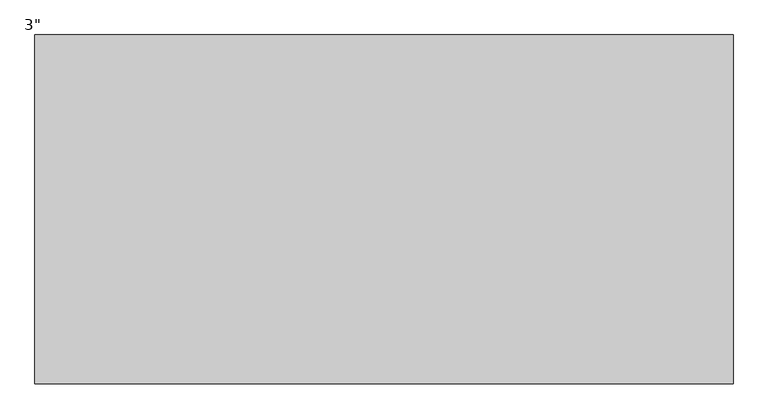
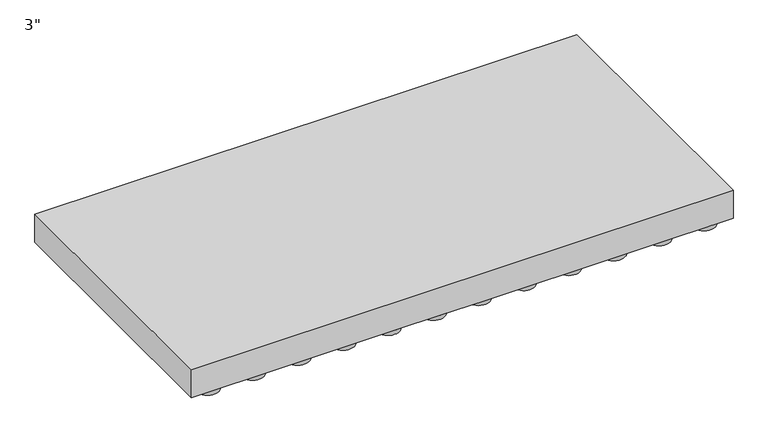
"""IFC4 building model written with IfcOpenShell, lengths in millimetres: proxy geometry."""

from ifc_helpers import new_model, si_unit, frame, origin, place, context, project, spatial, circle_curve, source, transform, mapped, element, save
from ifc_brep_helpers import plane_surface, cylinder_surface, advanced_brep


def proxy_50213ae0(model_context):
    return source(origin(), model_context, "Body", "AdvancedBrep", [
        advanced_brep(
        [(533.4, 279.4, 0.0), (584.2, 279.4, 0.0), (584.2, -279.4, 0.0), (533.4, -279.4, 0.0), (431.8, 279.4, 0.0), (482.6, 279.4, 0.0), (482.6, -279.4, 0.0), (431.8, -279.4, 0.0), (330.2, 279.4, 0.0), (381.0, 279.4, 0.0), (381.0, -279.4, 0.0), (330.2, -279.4, 0.0), (228.6, 279.4, 0.0), (279.4, 279.4, 0.0), (279.4, -279.4, 0.0), (228.6, -279.4, 0.0), (127.0, 279.4, 0.0), (177.8, 279.4, 0.0), (177.8, -279.4, 0.0), (127.0, -279.4, 0.0), (25.4, 279.4, 0.0), (76.2, 279.4, 0.0), (76.2, -279.4, 0.0), (25.4, -279.4, 0.0), (-76.2, 279.4, 0.0), (-25.4, 279.4, 0.0), (-25.4, -279.4, 0.0), (-76.2, -279.4, 0.0), (-177.8, 279.4, 0.0), (-127.0, 279.4, 0.0), (-127.0, -279.4, 0.0), (-177.8, -279.4, 0.0), (-279.4, 279.4, 0.0), (-228.6, 279.4, 0.0), (-228.6, -279.4, 0.0), (-279.4, -279.4, 0.0), (-381.0, 279.4, 0.0), (-330.2, 279.4, 0.0), (-330.2, -279.4, 0.0), (-381.0, -279.4, 0.0), (-482.6, 279.4, 0.0), (-431.8, 279.4, 0.0), (-431.8, -279.4, 0.0), (-482.6, -279.4, 0.0), (-584.2, 279.4, 0.0), (-533.4, 279.4, 0.0), (-533.4, -279.4, 0.0), (-584.2, -279.4, 0.0), (533.4, -279.4, 9.525), (533.4, 279.4, 9.525), (584.2, -279.4, 9.525), (558.8, -304.8, 9.525), (584.2, 279.4, 9.525), (558.8, 304.8, 9.525), (-609.6, -304.8, 76.2), (609.6, -304.8, 76.2), (609.6, 304.8, 76.2), (-609.6, 304.8, 76.2), (-609.6, -304.8, 9.525), (-609.6, 304.8, 9.525), (-558.8, 304.8, 9.525), (-584.2, 279.4, 9.525), (-584.2, -279.4, 9.525), (-558.8, -304.8, 9.525), (609.6, 304.8, 9.525), (609.6, -304.8, 9.525), (457.2, -304.8, 9.525), (482.6, -279.4, 9.525), (482.6, 279.4, 9.525), (457.2, 304.8, 9.525), (355.6, -304.8, 9.525), (381.0, -279.4, 9.525), (381.0, 279.4, 9.525), (355.6, 304.8, 9.525), (431.8, 279.4, 9.525), (431.8, -279.4, 9.525), (254.0, -304.8, 9.525), (279.4, -279.4, 9.525), (279.4, 279.4, 9.525), (254.0, 304.8, 9.525), (330.2, 279.4, 9.525), (330.2, -279.4, 9.525), (152.4, -304.8, 9.525), (177.8, -279.4, 9.525), (177.8, 279.4, 9.525), (152.4, 304.8, 9.525), (228.6, 279.4, 9.525), (228.6, -279.4, 9.525), (50.8, -304.8, 9.525), (76.2, -279.4, 9.525), (76.2, 279.4, 9.525), (50.8, 304.8, 9.525), (127.0, 279.4, 9.525), (127.0, -279.4, 9.525), (-50.8, -304.8, 9.525), (-25.4, -279.4, 9.525), (-25.4, 279.4, 9.525), (-50.8, 304.8, 9.525), (25.4, 279.4, 9.525), (25.4, -279.4, 9.525), (-152.4, -304.8, 9.525), (-127.0, -279.4, 9.525), (-127.0, 279.4, 9.525), (-152.4, 304.8, 9.525), (-76.2, 279.4, 9.525), (-76.2, -279.4, 9.525), (-254.0, -304.8, 9.525), (-228.6, -279.4, 9.525), (-228.6, 279.4, 9.525), (-254.0, 304.8, 9.525), (-177.8, 279.4, 9.525), (-177.8, -279.4, 9.525), (-355.6, -304.8, 9.525), (-330.2, -279.4, 9.525), (-330.2, 279.4, 9.525), (-355.6, 304.8, 9.525), (-279.4, 279.4, 9.525), (-279.4, -279.4, 9.525), (-457.2, -304.8, 9.525), (-431.8, -279.4, 9.525), (-431.8, 279.4, 9.525), (-457.2, 304.8, 9.525), (-381.0, 279.4, 9.525), (-381.0, -279.4, 9.525), (-533.4, -279.4, 9.525), (-533.4, 279.4, 9.525), (-482.6, 279.4, 9.525), (-482.6, -279.4, 9.525)],
        [
            (0, 1, circle_curve(frame((558.8, 279.4, 0.0), z_axis=(0.0, 0.0, -1.0), x_axis=(1.0, 0.0, 0.0)), 25.4)),
            (1, 2),
            (2, 3, circle_curve(frame((558.8, -279.4, 0.0), z_axis=(0.0, 0.0, -1.0), x_axis=(1.0, 0.0, 0.0)), 25.4)),
            (3, 0),
            (4, 5, circle_curve(frame((457.2, 279.4, 0.0), z_axis=(0.0, 0.0, -1.0), x_axis=(1.0, 0.0, 0.0)), 25.4)),
            (5, 6),
            (6, 7, circle_curve(frame((457.2, -279.4, 0.0), z_axis=(0.0, 0.0, -1.0), x_axis=(1.0, 0.0, 0.0)), 25.4)),
            (7, 4),
            (8, 9, circle_curve(frame((355.6, 279.4, 0.0), z_axis=(0.0, 0.0, -1.0), x_axis=(1.0, 0.0, 0.0)), 25.4)),
            (9, 10),
            (10, 11, circle_curve(frame((355.6, -279.4, 0.0), z_axis=(0.0, 0.0, -1.0), x_axis=(1.0, 0.0, 0.0)), 25.4)),
            (11, 8),
            (12, 13, circle_curve(frame((254.0, 279.4, 0.0), z_axis=(0.0, 0.0, -1.0), x_axis=(1.0, 0.0, 0.0)), 25.4)),
            (13, 14),
            (14, 15, circle_curve(frame((254.0, -279.4, 0.0), z_axis=(0.0, 0.0, -1.0), x_axis=(1.0, 0.0, 0.0)), 25.4)),
            (15, 12),
            (16, 17, circle_curve(frame((152.4, 279.4, 0.0), z_axis=(0.0, 0.0, -1.0), x_axis=(1.0, 0.0, 0.0)), 25.4)),
            (17, 18),
            (18, 19, circle_curve(frame((152.4, -279.4, 0.0), z_axis=(0.0, 0.0, -1.0), x_axis=(1.0, 0.0, 0.0)), 25.4)),
            (19, 16),
            (20, 21, circle_curve(frame((50.8, 279.4, 0.0), z_axis=(0.0, 0.0, -1.0), x_axis=(1.0, 0.0, 0.0)), 25.4)),
            (21, 22),
            (22, 23, circle_curve(frame((50.8, -279.4, 0.0), z_axis=(0.0, 0.0, -1.0), x_axis=(1.0, 0.0, 0.0)), 25.4)),
            (23, 20),
            (24, 25, circle_curve(frame((-50.8, 279.4, 0.0), z_axis=(0.0, 0.0, -1.0), x_axis=(1.0, 0.0, 0.0)), 25.4)),
            (25, 26),
            (26, 27, circle_curve(frame((-50.8, -279.4, 0.0), z_axis=(0.0, 0.0, -1.0), x_axis=(1.0, 0.0, 0.0)), 25.4)),
            (27, 24),
            (28, 29, circle_curve(frame((-152.4, 279.4, 0.0), z_axis=(0.0, 0.0, -1.0), x_axis=(1.0, 0.0, 0.0)), 25.4)),
            (29, 30),
            (30, 31, circle_curve(frame((-152.4, -279.4, 0.0), z_axis=(0.0, 0.0, -1.0), x_axis=(1.0, 0.0, 0.0)), 25.4)),
            (31, 28),
            (32, 33, circle_curve(frame((-254.0, 279.4, 0.0), z_axis=(0.0, 0.0, -1.0), x_axis=(1.0, 0.0, 0.0)), 25.4)),
            (33, 34),
            (34, 35, circle_curve(frame((-254.0, -279.4, 0.0), z_axis=(0.0, 0.0, -1.0), x_axis=(1.0, 0.0, 0.0)), 25.4)),
            (35, 32),
            (36, 37, circle_curve(frame((-355.6, 279.4, 0.0), z_axis=(0.0, 0.0, -1.0), x_axis=(1.0, 0.0, 0.0)), 25.4)),
            (37, 38),
            (38, 39, circle_curve(frame((-355.6, -279.4, 0.0), z_axis=(0.0, 0.0, -1.0), x_axis=(1.0, 0.0, 0.0)), 25.4)),
            (39, 36),
            (40, 41, circle_curve(frame((-457.2, 279.4, 0.0), z_axis=(0.0, 0.0, -1.0), x_axis=(1.0, 0.0, 0.0)), 25.4)),
            (41, 42),
            (42, 43, circle_curve(frame((-457.2, -279.4, 0.0), z_axis=(0.0, 0.0, -1.0), x_axis=(1.0, 0.0, 0.0)), 25.4)),
            (43, 40),
            (44, 45, circle_curve(frame((-558.8, 279.4, 0.0), z_axis=(0.0, 0.0, -1.0), x_axis=(1.0, 0.0, 0.0)), 25.4)),
            (45, 46),
            (46, 47, circle_curve(frame((-558.8, -279.4, 0.0), z_axis=(0.0, 0.0, -1.0), x_axis=(1.0, 0.0, 0.0)), 25.4)),
            (47, 44),
            (3, 48),
            (48, 49),
            (49, 0),
            (2, 50),
            (50, 51, circle_curve(frame((558.8, -279.4, 9.525), z_axis=(0.0, 0.0, -1.0), x_axis=(1.0, 0.0, 0.0)), 25.4)),
            (51, 48, circle_curve(frame((558.8, -279.4, 9.525), z_axis=(0.0, 0.0, -1.0), x_axis=(1.0, 0.0, 0.0)), 25.4)),
            (1, 52),
            (52, 50),
            (49, 53, circle_curve(frame((558.8, 279.4, 9.525), z_axis=(0.0, 0.0, -1.0), x_axis=(1.0, 0.0, 0.0)), 25.4)),
            (53, 52, circle_curve(frame((558.8, 279.4, 9.525), z_axis=(0.0, 0.0, -1.0), x_axis=(1.0, 0.0, 0.0)), 25.4)),
            (54, 55),
            (55, 56),
            (56, 57),
            (57, 54),
            (58, 59),
            (59, 60),
            (60, 61, circle_curve(frame((-558.8, 279.4, 9.525), z_axis=(0.0, 0.0, 1.0), x_axis=(1.0, 0.0, 0.0)), 25.4)),
            (61, 62),
            (62, 63, circle_curve(frame((-558.8, -279.4, 9.525), z_axis=(0.0, 0.0, 1.0), x_axis=(1.0, 0.0, 0.0)), 25.4)),
            (63, 58),
            (64, 65),
            (65, 51),
            (53, 64),
            (51, 66),
            (66, 67, circle_curve(frame((457.2, -279.4, 9.525), z_axis=(0.0, 0.0, 1.0), x_axis=(1.0, 0.0, 0.0)), 25.4)),
            (67, 68),
            (68, 69, circle_curve(frame((457.2, 279.4, 9.525), z_axis=(0.0, 0.0, 1.0), x_axis=(1.0, 0.0, 0.0)), 25.4)),
            (69, 53),
            (66, 70),
            (70, 71, circle_curve(frame((355.6, -279.4, 9.525), z_axis=(0.0, 0.0, 1.0), x_axis=(1.0, 0.0, 0.0)), 25.4)),
            (71, 72),
            (72, 73, circle_curve(frame((355.6, 279.4, 9.525), z_axis=(0.0, 0.0, 1.0), x_axis=(1.0, 0.0, 0.0)), 25.4)),
            (73, 69),
            (69, 74, circle_curve(frame((457.2, 279.4, 9.525), z_axis=(0.0, 0.0, 1.0), x_axis=(1.0, 0.0, 0.0)), 25.4)),
            (74, 75),
            (75, 66, circle_curve(frame((457.2, -279.4, 9.525), z_axis=(0.0, 0.0, 1.0), x_axis=(1.0, 0.0, 0.0)), 25.4)),
            (70, 76),
            (76, 77, circle_curve(frame((254.0, -279.4, 9.525), z_axis=(0.0, 0.0, 1.0), x_axis=(1.0, 0.0, 0.0)), 25.4)),
            (77, 78),
            (78, 79, circle_curve(frame((254.0, 279.4, 9.525), z_axis=(0.0, 0.0, 1.0), x_axis=(1.0, 0.0, 0.0)), 25.4)),
            (79, 73),
            (73, 80, circle_curve(frame((355.6, 279.4, 9.525), z_axis=(0.0, 0.0, 1.0), x_axis=(1.0, 0.0, 0.0)), 25.4)),
            (80, 81),
            (81, 70, circle_curve(frame((355.6, -279.4, 9.525), z_axis=(0.0, 0.0, 1.0), x_axis=(1.0, 0.0, 0.0)), 25.4)),
            (76, 82),
            (82, 83, circle_curve(frame((152.4, -279.4, 9.525), z_axis=(0.0, 0.0, 1.0), x_axis=(1.0, 0.0, 0.0)), 25.4)),
            (83, 84),
            (84, 85, circle_curve(frame((152.4, 279.4, 9.525), z_axis=(0.0, 0.0, 1.0), x_axis=(1.0, 0.0, 0.0)), 25.4)),
            (85, 79),
            (79, 86, circle_curve(frame((254.0, 279.4, 9.525), z_axis=(0.0, 0.0, 1.0), x_axis=(1.0, 0.0, 0.0)), 25.4)),
            (86, 87),
            (87, 76, circle_curve(frame((254.0, -279.4, 9.525), z_axis=(0.0, 0.0, 1.0), x_axis=(1.0, 0.0, 0.0)), 25.4)),
            (82, 88),
            (88, 89, circle_curve(frame((50.8, -279.4, 9.525), z_axis=(0.0, 0.0, 1.0), x_axis=(1.0, 0.0, 0.0)), 25.4)),
            (89, 90),
            (90, 91, circle_curve(frame((50.8, 279.4, 9.525), z_axis=(0.0, 0.0, 1.0), x_axis=(1.0, 0.0, 0.0)), 25.4)),
            (91, 85),
            (85, 92, circle_curve(frame((152.4, 279.4, 9.525), z_axis=(0.0, 0.0, 1.0), x_axis=(1.0, 0.0, 0.0)), 25.4)),
            (92, 93),
            (93, 82, circle_curve(frame((152.4, -279.4, 9.525), z_axis=(0.0, 0.0, 1.0), x_axis=(1.0, 0.0, 0.0)), 25.4)),
            (88, 94),
            (94, 95, circle_curve(frame((-50.8, -279.4, 9.525), z_axis=(0.0, 0.0, 1.0), x_axis=(1.0, 0.0, 0.0)), 25.4)),
            (95, 96),
            (96, 97, circle_curve(frame((-50.8, 279.4, 9.525), z_axis=(0.0, 0.0, 1.0), x_axis=(1.0, 0.0, 0.0)), 25.4)),
            (97, 91),
            (91, 98, circle_curve(frame((50.8, 279.4, 9.525), z_axis=(0.0, 0.0, 1.0), x_axis=(1.0, 0.0, 0.0)), 25.4)),
            (98, 99),
            (99, 88, circle_curve(frame((50.8, -279.4, 9.525), z_axis=(0.0, 0.0, 1.0), x_axis=(1.0, 0.0, 0.0)), 25.4)),
            (94, 100),
            (100, 101, circle_curve(frame((-152.4, -279.4, 9.525), z_axis=(0.0, 0.0, 1.0), x_axis=(1.0, 0.0, 0.0)), 25.4)),
            (101, 102),
            (102, 103, circle_curve(frame((-152.4, 279.4, 9.525), z_axis=(0.0, 0.0, 1.0), x_axis=(1.0, 0.0, 0.0)), 25.4)),
            (103, 97),
            (97, 104, circle_curve(frame((-50.8, 279.4, 9.525), z_axis=(0.0, 0.0, 1.0), x_axis=(1.0, 0.0, 0.0)), 25.4)),
            (104, 105),
            (105, 94, circle_curve(frame((-50.8, -279.4, 9.525), z_axis=(0.0, 0.0, 1.0), x_axis=(1.0, 0.0, 0.0)), 25.4)),
            (100, 106),
            (106, 107, circle_curve(frame((-254.0, -279.4, 9.525), z_axis=(0.0, 0.0, 1.0), x_axis=(1.0, 0.0, 0.0)), 25.4)),
            (107, 108),
            (108, 109, circle_curve(frame((-254.0, 279.4, 9.525), z_axis=(0.0, 0.0, 1.0), x_axis=(1.0, 0.0, 0.0)), 25.4)),
            (109, 103),
            (103, 110, circle_curve(frame((-152.4, 279.4, 9.525), z_axis=(0.0, 0.0, 1.0), x_axis=(1.0, 0.0, 0.0)), 25.4)),
            (110, 111),
            (111, 100, circle_curve(frame((-152.4, -279.4, 9.525), z_axis=(0.0, 0.0, 1.0), x_axis=(1.0, 0.0, 0.0)), 25.4)),
            (106, 112),
            (112, 113, circle_curve(frame((-355.6, -279.4, 9.525), z_axis=(0.0, 0.0, 1.0), x_axis=(1.0, 0.0, 0.0)), 25.4)),
            (113, 114),
            (114, 115, circle_curve(frame((-355.6, 279.4, 9.525), z_axis=(0.0, 0.0, 1.0), x_axis=(1.0, 0.0, 0.0)), 25.4)),
            (115, 109),
            (109, 116, circle_curve(frame((-254.0, 279.4, 9.525), z_axis=(0.0, 0.0, 1.0), x_axis=(1.0, 0.0, 0.0)), 25.4)),
            (116, 117),
            (117, 106, circle_curve(frame((-254.0, -279.4, 9.525), z_axis=(0.0, 0.0, 1.0), x_axis=(1.0, 0.0, 0.0)), 25.4)),
            (112, 118),
            (118, 119, circle_curve(frame((-457.2, -279.4, 9.525), z_axis=(0.0, 0.0, 1.0), x_axis=(1.0, 0.0, 0.0)), 25.4)),
            (119, 120),
            (120, 121, circle_curve(frame((-457.2, 279.4, 9.525), z_axis=(0.0, 0.0, 1.0), x_axis=(1.0, 0.0, 0.0)), 25.4)),
            (121, 115),
            (115, 122, circle_curve(frame((-355.6, 279.4, 9.525), z_axis=(0.0, 0.0, 1.0), x_axis=(1.0, 0.0, 0.0)), 25.4)),
            (122, 123),
            (123, 112, circle_curve(frame((-355.6, -279.4, 9.525), z_axis=(0.0, 0.0, 1.0), x_axis=(1.0, 0.0, 0.0)), 25.4)),
            (118, 63),
            (63, 124, circle_curve(frame((-558.8, -279.4, 9.525), z_axis=(0.0, 0.0, 1.0), x_axis=(1.0, 0.0, 0.0)), 25.4)),
            (124, 125),
            (125, 60, circle_curve(frame((-558.8, 279.4, 9.525), z_axis=(0.0, 0.0, 1.0), x_axis=(1.0, 0.0, 0.0)), 25.4)),
            (60, 121),
            (121, 126, circle_curve(frame((-457.2, 279.4, 9.525), z_axis=(0.0, 0.0, 1.0), x_axis=(1.0, 0.0, 0.0)), 25.4)),
            (126, 127),
            (127, 118, circle_curve(frame((-457.2, -279.4, 9.525), z_axis=(0.0, 0.0, 1.0), x_axis=(1.0, 0.0, 0.0)), 25.4)),
            (54, 58),
            (65, 55),
            (64, 56),
            (59, 57),
            (7, 75),
            (74, 4),
            (6, 67),
            (5, 68),
            (11, 81),
            (80, 8),
            (10, 71),
            (9, 72),
            (15, 87),
            (86, 12),
            (14, 77),
            (13, 78),
            (19, 93),
            (92, 16),
            (18, 83),
            (17, 84),
            (23, 99),
            (98, 20),
            (22, 89),
            (21, 90),
            (27, 105),
            (104, 24),
            (26, 95),
            (25, 96),
            (31, 111),
            (110, 28),
            (30, 101),
            (29, 102),
            (35, 117),
            (116, 32),
            (34, 107),
            (33, 108),
            (39, 123),
            (122, 36),
            (38, 113),
            (37, 114),
            (43, 127),
            (126, 40),
            (42, 119),
            (41, 120),
            (47, 62),
            (61, 44),
            (46, 124),
            (45, 125),
        ],
        [
            plane_surface(frame((533.4, 279.4, 0.0), z_axis=(0.0, 0.0, -1.0), x_axis=(0.0, 1.0, 0.0))),
            plane_surface(frame((533.4, 279.4, 9.525), z_axis=(-1.0, 0.0, 0.0), x_axis=(0.0, 0.0, -1.0))),
            cylinder_surface(frame((558.8, -279.4, 0.0), z_axis=(0.0, 0.0, 1.0), x_axis=(1.0, 0.0, 0.0)), 25.4),
            plane_surface(frame((584.2, -279.4, 9.525), z_axis=(1.0, 0.0, 0.0), x_axis=(0.0, 0.0, -1.0))),
            cylinder_surface(frame((558.8, 279.4, 0.0), z_axis=(0.0, 0.0, 1.0), x_axis=(1.0, 0.0, 0.0)), 25.4),
            plane_surface(frame((1524.0, -304.8, 76.2), z_axis=(0.0, 0.0, 1.0), x_axis=(1.0, 0.0, 0.0))),
            plane_surface(frame((1524.0, -304.8, 9.525), z_axis=(0.0, 0.0, -1.0), x_axis=(-1.0, 0.0, 0.0))),
            plane_surface(frame((-609.6, -304.8, 76.2), z_axis=(0.0, -1.0, 0.0), x_axis=(0.0, 0.0, -1.0))),
            plane_surface(frame((609.6, -304.8, 76.2), z_axis=(1.0, 0.0, 0.0), x_axis=(0.0, 0.0, -1.0))),
            plane_surface(frame((609.6, 304.8, 76.2), z_axis=(0.0, 1.0, 0.0), x_axis=(0.0, 0.0, -1.0))),
            plane_surface(frame((-609.6, 304.8, 76.2), z_axis=(-1.0, 0.0, 0.0), x_axis=(0.0, 0.0, -1.0))),
            plane_surface(frame((431.8, 279.4, 9.525), z_axis=(-1.0, 0.0, 0.0), x_axis=(0.0, 0.0, -1.0))),
            cylinder_surface(frame((457.2, -279.4, 0.0), z_axis=(0.0, 0.0, 1.0), x_axis=(1.0, 0.0, 0.0)), 25.4),
            plane_surface(frame((482.6, -279.4, 9.525), z_axis=(1.0, 0.0, 0.0), x_axis=(0.0, 0.0, -1.0))),
            cylinder_surface(frame((457.2, 279.4, 0.0), z_axis=(0.0, 0.0, 1.0), x_axis=(1.0, 0.0, 0.0)), 25.4),
            plane_surface(frame((330.2, 279.4, 9.525), z_axis=(-1.0, 0.0, 0.0), x_axis=(0.0, 0.0, -1.0))),
            cylinder_surface(frame((355.6, -279.4, 0.0), z_axis=(0.0, 0.0, 1.0), x_axis=(1.0, 0.0, 0.0)), 25.4),
            plane_surface(frame((381.0, -279.4, 9.525), z_axis=(1.0, 0.0, 0.0), x_axis=(0.0, 0.0, -1.0))),
            cylinder_surface(frame((355.6, 279.4, 0.0), z_axis=(0.0, 0.0, 1.0), x_axis=(1.0, 0.0, 0.0)), 25.4),
            plane_surface(frame((228.6, 279.4, 9.525), z_axis=(-1.0, 0.0, 0.0), x_axis=(0.0, 0.0, -1.0))),
            cylinder_surface(frame((254.0, -279.4, 0.0), z_axis=(0.0, 0.0, 1.0), x_axis=(1.0, 0.0, 0.0)), 25.4),
            plane_surface(frame((279.4, -279.4, 9.525), z_axis=(1.0, 0.0, 0.0), x_axis=(0.0, 0.0, -1.0))),
            cylinder_surface(frame((254.0, 279.4, 0.0), z_axis=(0.0, 0.0, 1.0), x_axis=(1.0, 0.0, 0.0)), 25.4),
            plane_surface(frame((127.0, 279.4, 9.525), z_axis=(-1.0, 0.0, 0.0), x_axis=(0.0, 0.0, -1.0))),
            cylinder_surface(frame((152.4, -279.4, 0.0), z_axis=(0.0, 0.0, 1.0), x_axis=(1.0, 0.0, 0.0)), 25.4),
            plane_surface(frame((177.8, -279.4, 9.525), z_axis=(1.0, 0.0, 0.0), x_axis=(0.0, 0.0, -1.0))),
            cylinder_surface(frame((152.4, 279.4, 0.0), z_axis=(0.0, 0.0, 1.0), x_axis=(1.0, 0.0, 0.0)), 25.4),
            plane_surface(frame((25.4, 279.4, 9.525), z_axis=(-1.0, 0.0, 0.0), x_axis=(0.0, 0.0, -1.0))),
            cylinder_surface(frame((50.8, -279.4, 0.0), z_axis=(0.0, 0.0, 1.0), x_axis=(1.0, 0.0, 0.0)), 25.4),
            plane_surface(frame((76.2, -279.4, 9.525), z_axis=(1.0, 0.0, 0.0), x_axis=(0.0, 0.0, -1.0))),
            cylinder_surface(frame((50.8, 279.4, 0.0), z_axis=(0.0, 0.0, 1.0), x_axis=(1.0, 0.0, 0.0)), 25.4),
            plane_surface(frame((-76.2, 279.4, 9.525), z_axis=(-1.0, 0.0, 0.0), x_axis=(0.0, 0.0, -1.0))),
            cylinder_surface(frame((-50.8, -279.4, 0.0), z_axis=(0.0, 0.0, 1.0), x_axis=(1.0, 0.0, 0.0)), 25.4),
            plane_surface(frame((-25.4, -279.4, 9.525), z_axis=(1.0, 0.0, 0.0), x_axis=(0.0, 0.0, -1.0))),
            cylinder_surface(frame((-50.8, 279.4, 0.0), z_axis=(0.0, 0.0, 1.0), x_axis=(1.0, 0.0, 0.0)), 25.4),
            plane_surface(frame((-177.8, 279.4, 9.525), z_axis=(-1.0, 0.0, 0.0), x_axis=(0.0, 0.0, -1.0))),
            cylinder_surface(frame((-152.4, -279.4, 0.0), z_axis=(0.0, 0.0, 1.0), x_axis=(1.0, 0.0, 0.0)), 25.4),
            plane_surface(frame((-127.0, -279.4, 9.525), z_axis=(1.0, 0.0, 0.0), x_axis=(0.0, 0.0, -1.0))),
            cylinder_surface(frame((-152.4, 279.4, 0.0), z_axis=(0.0, 0.0, 1.0), x_axis=(1.0, 0.0, 0.0)), 25.4),
            plane_surface(frame((-279.4, 279.4, 9.525), z_axis=(-1.0, 0.0, 0.0), x_axis=(0.0, 0.0, -1.0))),
            cylinder_surface(frame((-254.0, -279.4, 0.0), z_axis=(0.0, 0.0, 1.0), x_axis=(1.0, 0.0, 0.0)), 25.4),
            plane_surface(frame((-228.6, -279.4, 9.525), z_axis=(1.0, 0.0, 0.0), x_axis=(0.0, 0.0, -1.0))),
            cylinder_surface(frame((-254.0, 279.4, 0.0), z_axis=(0.0, 0.0, 1.0), x_axis=(1.0, 0.0, 0.0)), 25.4),
            plane_surface(frame((-381.0, 279.4, 9.525), z_axis=(-1.0, 0.0, 0.0), x_axis=(0.0, 0.0, -1.0))),
            cylinder_surface(frame((-355.6, -279.4, 0.0), z_axis=(0.0, 0.0, 1.0), x_axis=(1.0, 0.0, 0.0)), 25.4),
            plane_surface(frame((-330.2, -279.4, 9.525), z_axis=(1.0, 0.0, 0.0), x_axis=(0.0, 0.0, -1.0))),
            cylinder_surface(frame((-355.6, 279.4, 0.0), z_axis=(0.0, 0.0, 1.0), x_axis=(1.0, 0.0, 0.0)), 25.4),
            plane_surface(frame((-482.6, 279.4, 9.525), z_axis=(-1.0, 0.0, 0.0), x_axis=(0.0, 0.0, -1.0))),
            cylinder_surface(frame((-457.2, -279.4, 0.0), z_axis=(0.0, 0.0, 1.0), x_axis=(1.0, 0.0, 0.0)), 25.4),
            plane_surface(frame((-431.8, -279.4, 9.525), z_axis=(1.0, 0.0, 0.0), x_axis=(0.0, 0.0, -1.0))),
            cylinder_surface(frame((-457.2, 279.4, 0.0), z_axis=(0.0, 0.0, 1.0), x_axis=(1.0, 0.0, 0.0)), 25.4),
            plane_surface(frame((-584.2, 279.4, 9.525), z_axis=(-1.0, 0.0, 0.0), x_axis=(0.0, 0.0, -1.0))),
            cylinder_surface(frame((-558.8, -279.4, 0.0), z_axis=(0.0, 0.0, 1.0), x_axis=(1.0, 0.0, 0.0)), 25.4),
            plane_surface(frame((-533.4, -279.4, 9.525), z_axis=(1.0, 0.0, 0.0), x_axis=(0.0, 0.0, -1.0))),
            cylinder_surface(frame((-558.8, 279.4, 0.0), z_axis=(0.0, 0.0, 1.0), x_axis=(1.0, 0.0, 0.0)), 25.4),
        ],
        [
            (0, [[1, 2, 3, 4]]),
            (0, [[5, 6, 7, 8]]),
            (0, [[9, 10, 11, 12]]),
            (0, [[13, 14, 15, 16]]),
            (0, [[17, 18, 19, 20]]),
            (0, [[21, 22, 23, 24]]),
            (0, [[25, 26, 27, 28]]),
            (0, [[29, 30, 31, 32]]),
            (0, [[33, 34, 35, 36]]),
            (0, [[37, 38, 39, 40]]),
            (0, [[41, 42, 43, 44]]),
            (0, [[45, 46, 47, 48]]),
            (1, [[-4, 49, 50, 51]]),
            (2, [[-3, 52, 53, 54, -49]]),
            (3, [[-2, 55, 56, -52]]),
            (4, [[-1, -51, 57, 58, -55]]),
            (5, [[59, 60, 61, 62]]),
            (6, [[63, 64, 65, 66, 67, 68]]),
            (6, [[69, 70, -53, -56, -58, 71]]),
            (6, [[72, 73, 74, 75, 76, -57, -50, -54]]),
            (6, [[77, 78, 79, 80, 81, 82, 83, 84]]),
            (6, [[85, 86, 87, 88, 89, 90, 91, 92]]),
            (6, [[93, 94, 95, 96, 97, 98, 99, 100]]),
            (6, [[101, 102, 103, 104, 105, 106, 107, 108]]),
            (6, [[109, 110, 111, 112, 113, 114, 115, 116]]),
            (6, [[117, 118, 119, 120, 121, 122, 123, 124]]),
            (6, [[125, 126, 127, 128, 129, 130, 131, 132]]),
            (6, [[133, 134, 135, 136, 137, 138, 139, 140]]),
            (6, [[141, 142, 143, 144, 145, 146, 147, 148]]),
            (6, [[149, 150, 151, 152, 153, 154, 155, 156]]),
            (7, [[-59, 157, -68, -149, -141, -133, -125, -117, -109, -101, -93, -85, -77, -72, -70, 158]]),
            (8, [[-60, -158, -69, 159]]),
            (9, [[-61, -159, -71, -76, -81, -89, -97, -105, -113, -121, -129, -137, -145, -153, -64, 160]]),
            (10, [[-62, -160, -63, -157]]),
            (11, [[-8, 161, -83, 162]]),
            (12, [[-7, 163, -73, -84, -161]]),
            (13, [[-6, 164, -74, -163]]),
            (14, [[-5, -162, -82, -75, -164]]),
            (15, [[-12, 165, -91, 166]]),
            (16, [[-11, 167, -78, -92, -165]]),
            (17, [[-10, 168, -79, -167]]),
            (18, [[-9, -166, -90, -80, -168]]),
            (19, [[-16, 169, -99, 170]]),
            (20, [[-15, 171, -86, -100, -169]]),
            (21, [[-14, 172, -87, -171]]),
            (22, [[-13, -170, -98, -88, -172]]),
            (23, [[-20, 173, -107, 174]]),
            (24, [[-19, 175, -94, -108, -173]]),
            (25, [[-18, 176, -95, -175]]),
            (26, [[-17, -174, -106, -96, -176]]),
            (27, [[-24, 177, -115, 178]]),
            (28, [[-23, 179, -102, -116, -177]]),
            (29, [[-22, 180, -103, -179]]),
            (30, [[-21, -178, -114, -104, -180]]),
            (31, [[-28, 181, -123, 182]]),
            (32, [[-27, 183, -110, -124, -181]]),
            (33, [[-26, 184, -111, -183]]),
            (34, [[-25, -182, -122, -112, -184]]),
            (35, [[-32, 185, -131, 186]]),
            (36, [[-31, 187, -118, -132, -185]]),
            (37, [[-30, 188, -119, -187]]),
            (38, [[-29, -186, -130, -120, -188]]),
            (39, [[-36, 189, -139, 190]]),
            (40, [[-35, 191, -126, -140, -189]]),
            (41, [[-34, 192, -127, -191]]),
            (42, [[-33, -190, -138, -128, -192]]),
            (43, [[-40, 193, -147, 194]]),
            (44, [[-39, 195, -134, -148, -193]]),
            (45, [[-38, 196, -135, -195]]),
            (46, [[-37, -194, -146, -136, -196]]),
            (47, [[-44, 197, -155, 198]]),
            (48, [[-43, 199, -142, -156, -197]]),
            (49, [[-42, 200, -143, -199]]),
            (50, [[-41, -198, -154, -144, -200]]),
            (51, [[-48, 201, -66, 202]]),
            (52, [[-47, 203, -150, -67, -201]]),
            (53, [[-46, 204, -151, -203]]),
            (54, [[-45, -202, -65, -152, -204]]),
        ],
    ),
    ])


if __name__ == "__main__":
    model = new_model("IFC4")
    model_context = context("Model", 3, world=origin())
    ifc_project = project(units=[si_unit("LENGTHUNIT", "METRE", prefix="MILLI")], contexts=[model_context])
    site = spatial("IfcSite", under=ifc_project)
    building = spatial("IfcBuilding", under=site)
    placement = place(None, origin())
    proxy_shape = proxy_50213ae0(model_context)
    element("IfcBuildingElementProxy", 1, Name="Durabond Generic Model Quantum Select 5-0 Insulation Board : 3\"", ObjectType="Durabond Generic Model Quantum Select 5-0 Insulation Board : 3\"", at=placement, inside=building, context=model_context, shape_type="MappedRepresentation", body=[
        mapped(proxy_shape, transform((0.0, 0.0, 0.0), x_axis=(1.0, 0.0, 0.0), y_axis=(0.0, 1.0, 0.0), z_axis=(0.0, 0.0, 1.0))),
    ])
    save(model, "model.ifc")
